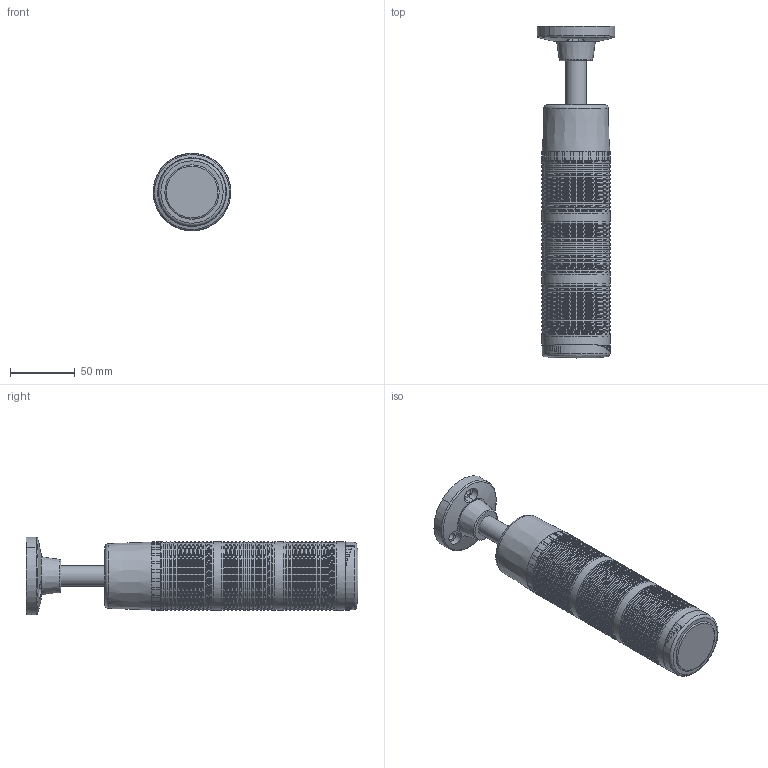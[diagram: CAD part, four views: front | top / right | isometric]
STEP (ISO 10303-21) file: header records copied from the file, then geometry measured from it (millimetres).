
FILE_DESCRIPTION(/* description */ (''),/* implementation_level */ '2;1');
FILE_NAME(/* name */ 'OLM2-301.stp',/* time_stamp */ '2024-04-02T09:19:17+08:00',/* author */ (''),/* organization */ (''),/* preprocessor_version */ 'ST-DEVELOPER v16.7',/* originating_system */ 'SIEMENS PLM Software NX 12.0',/* authorisation */ '');
FILE_SCHEMA (('AUTOMOTIVE_DESIGN { 1 0 10303 214 3 1 1 1 }'));
Products named in the file (1): Admi450C951F3iw4
Bounding box: 60.14 x 257.01 x 60.06 mm (x, y, z)
Volume: 172022.2 mm3; surface area: 143970.1 mm2
Topology: 10 solids, 10 shells, 2010 faces, 5564 edges, 3679 vertices
Faces by surface type: plane 1255, cone 342, bspline 226, torus 91, cylinder 88, sphere 8
Full cylindrical faces by diameter (mm): 2 x9, 2.5 x7, 4 x1, 5 x6, 6 x1, 6.4 x6, 14.4 x1, 15.998 x1, 40.18 x1, 45.6 x1, 50.1 x4, 52.782 x3, 52.783 x6, 52.786 x3
Entity records: 83292 total; most frequent: CARTESIAN_POINT 35367, ORIENTED_EDGE 10438, DIRECTION 9025, EDGE_CURVE 5219, VERTEX_POINT 3558, AXIS2_PLACEMENT_3D 3463, EDGE_LOOP 2385, LINE 2099
